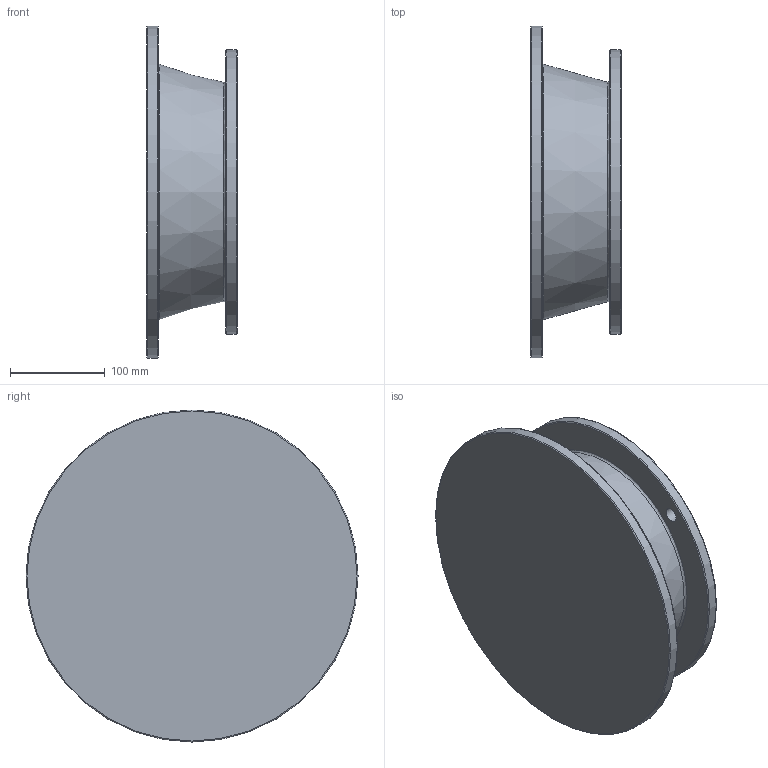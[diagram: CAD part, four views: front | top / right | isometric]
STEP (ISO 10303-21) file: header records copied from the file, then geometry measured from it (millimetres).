
FILE_DESCRIPTION((''),'2;1');
FILE_NAME('D:\PAWEŁ\ZLECENIA\2011 DualSystem\Przekładnie DR\DR100\STEP\132_B5_L95.stp','2012-06-11T12:29:10',('admin'),(''),'Autodesk Inventor 2009','Autodesk Inventor 2009','');
FILE_SCHEMA(('AUTOMOTIVE_DESIGN { 1 0 10303 214 1 1 1 1 }'));
Length unit declared in the file: millimetre
Products named in the file (1): 132_B5_L95
Bounding box: 95 x 350 x 350 mm (x, y, z)
Volume: 2026357.5 mm3; surface area: 418811.7 mm2
Topology: 1 solids, 1 shells, 30 faces, 58 edges, 36 vertices
Faces by surface type: plane 11, cylinder 6, bspline 6, torus 5, cone 2
Full cylindrical faces by diameter (mm): 62 x1, 217.533 x1, 230 x1, 300 x1, 350 x1
Entity records: 895 total; most frequent: CARTESIAN_POINT 281, DIRECTION 120, ORIENTED_EDGE 80, EDGE_LOOP 62, AXIS2_PLACEMENT_3D 55, EDGE_CURVE 40, VERTEX_POINT 36, FACE_BOUND 32
